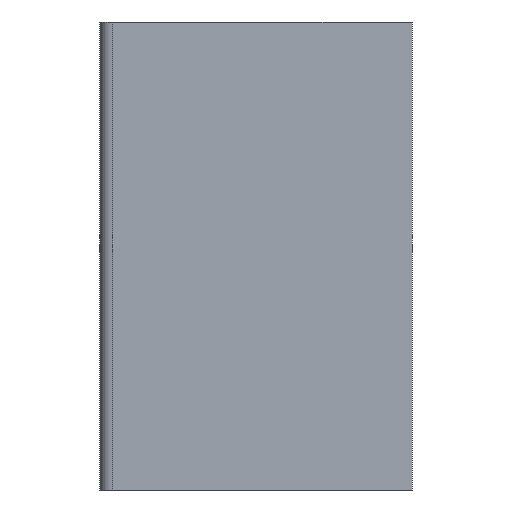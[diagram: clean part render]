
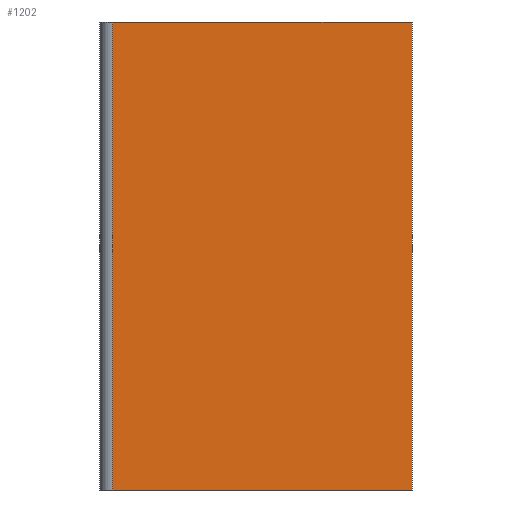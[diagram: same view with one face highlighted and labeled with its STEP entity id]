
A CAD part, left-side view. The second image highlights one B-rep face of the part: STEP entity #1202.
In plain terms, the highlighted planar face has unit normal (-1, 0, 0).
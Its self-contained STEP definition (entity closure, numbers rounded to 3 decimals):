
#80 = DIRECTION ( 'NONE',  ( 1., 0., 0. ) ) ;
#128 = ORIENTED_EDGE ( 'NONE', *, *, #315, .T. ) ;
#132 = VECTOR ( 'NONE', #1674, 1000. ) ;
#143 = ORIENTED_EDGE ( 'NONE', *, *, #2372, .F. ) ;
#163 = DIRECTION ( 'NONE',  ( 0., 0., -1. ) ) ;
#219 = ORIENTED_EDGE ( 'NONE', *, *, #2174, .T. ) ;
#315 = EDGE_CURVE ( 'NONE', #1254, #1073, #447, .T. ) ;
#436 = ORIENTED_EDGE ( 'NONE', *, *, #1147, .F. ) ;
#447 = LINE ( 'NONE', #758, #2343 ) ;
#670 = LINE ( 'NONE', #1485, #132 ) ;
#758 = CARTESIAN_POINT ( 'NONE',  ( -61.803, 144.108, 37.5 ) ) ;
#779 = LINE ( 'NONE', #1451, #1220 ) ;
#787 = CARTESIAN_POINT ( 'NONE',  ( -61.803, 120.108, 37.5 ) ) ;
#920 = LINE ( 'NONE', #787, #1465 ) ;
#1073 = VERTEX_POINT ( 'NONE', #2091 ) ;
#1137 = AXIS2_PLACEMENT_3D ( 'NONE', #2276, #80, #1354 ) ;
#1147 = EDGE_CURVE ( 'NONE', #1439, #2328, #920, .T. ) ;
#1202 = ADVANCED_FACE ( 'NONE', ( #1731 ), #2095, .F. ) ;
#1220 = VECTOR ( 'NONE', #1638, 1000. ) ;
#1254 = VERTEX_POINT ( 'NONE', #1998 ) ;
#1354 = DIRECTION ( 'NONE',  ( 0., 0., -1. ) ) ;
#1439 = VERTEX_POINT ( 'NONE', #1543 ) ;
#1451 = CARTESIAN_POINT ( 'NONE',  ( -61.803, 120.108, 37.5 ) ) ;
#1465 = VECTOR ( 'NONE', #2258, 1000. ) ;
#1485 = CARTESIAN_POINT ( 'NONE',  ( -61.803, 120.108, 0. ) ) ;
#1543 = CARTESIAN_POINT ( 'NONE',  ( -61.803, 120.108, 37.5 ) ) ;
#1621 = EDGE_LOOP ( 'NONE', ( #219, #436, #143, #128 ) ) ;
#1626 = CARTESIAN_POINT ( 'NONE',  ( -61.803, 120.108, 0. ) ) ;
#1638 = DIRECTION ( 'NONE',  ( 0., -1., 0. ) ) ;
#1674 = DIRECTION ( 'NONE',  ( 0., -1., 0. ) ) ;
#1731 = FACE_OUTER_BOUND ( 'NONE', #1621, .T. ) ;
#1998 = CARTESIAN_POINT ( 'NONE',  ( -61.803, 144.108, 37.5 ) ) ;
#2091 = CARTESIAN_POINT ( 'NONE',  ( -61.803, 144.108, 0. ) ) ;
#2095 = PLANE ( 'NONE',  #1137 ) ;
#2174 = EDGE_CURVE ( 'NONE', #1073, #2328, #670, .T. ) ;
#2258 = DIRECTION ( 'NONE',  ( 0., 0., -1. ) ) ;
#2276 = CARTESIAN_POINT ( 'NONE',  ( -61.803, 120.108, 37.5 ) ) ;
#2328 = VERTEX_POINT ( 'NONE', #1626 ) ;
#2343 = VECTOR ( 'NONE', #163, 1000. ) ;
#2372 = EDGE_CURVE ( 'NONE', #1254, #1439, #779, .T. ) ;
